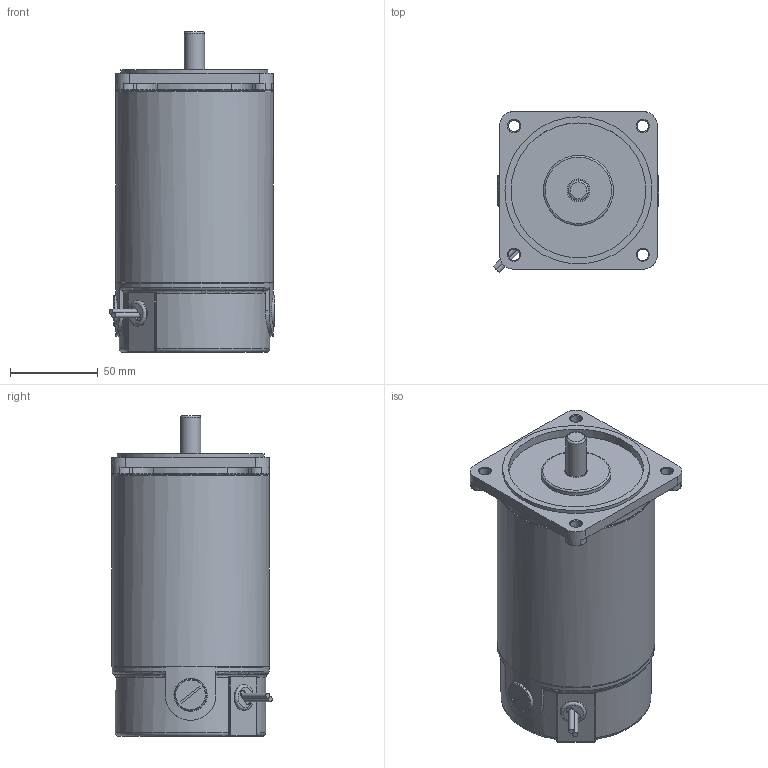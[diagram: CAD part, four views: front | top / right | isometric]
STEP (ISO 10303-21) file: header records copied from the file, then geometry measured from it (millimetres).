
FILE_DESCRIPTION((''),'2;1');
FILE_NAME('\\192.168.5.4\오메가연구소\DC CAD\02 - DC MOTOR 설계 - CAD FILE\DC MOTOR 3D 도면\표준 3D 파일\90각\200W\S9D200-ㅁHH.stp','2014-06-16T20:05:59',('ycw1227'),(''),'Autodesk Inventor 2011','Autodesk Inventor 2011','');
FILE_SCHEMA(('AUTOMOTIVE_DESIGN { 1 0 10303 214 1 1 1 1 }'));
Length unit declared in the file: millimetre
Products named in the file (1): 부품34
Bounding box: 94.79 x 91.63 x 183.3 mm (x, y, z)
Volume: 1004391 mm3; surface area: 67646.6 mm2
Topology: 2 solids, 4 shells, 186 faces, 426 edges, 262 vertices
Faces by surface type: plane 74, cylinder 65, torus 31, cone 13, sphere 2, bspline 1
Full cylindrical faces by diameter (mm): 3 x2, 5 x3, 6.5 x4, 11.57 x1, 12 x1, 13 x1, 14.63 x1, 14.65 x1, 18 x2, 19 x2, 40 x1, 77 x1, 84 x1, 90 x2
Entity records: 5545 total; most frequent: CARTESIAN_POINT 1289, DIRECTION 938, ORIENTED_EDGE 772, AXIS2_PLACEMENT_3D 396, EDGE_CURVE 386, VERTEX_POINT 257, EDGE_LOOP 244, CIRCLE 210
